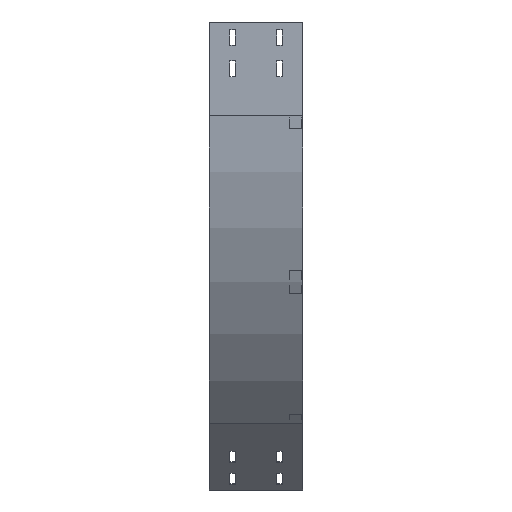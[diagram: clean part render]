
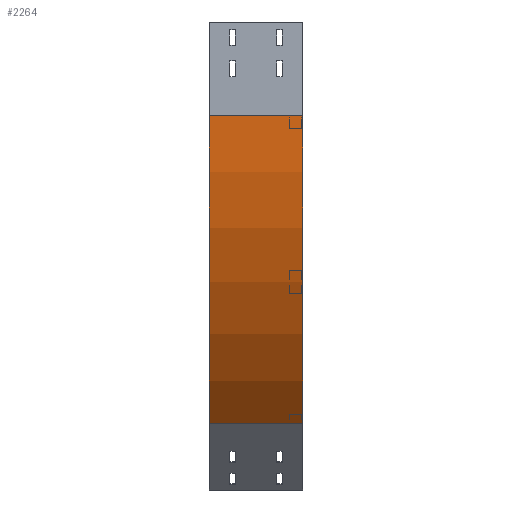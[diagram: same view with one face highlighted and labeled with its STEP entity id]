
A CAD part, left-side view. The second image highlights one B-rep face of the part: STEP entity #2264.
In plain terms, the highlighted cylindrical face has radius 700 mm (diameter 1400 mm), a partial arc.
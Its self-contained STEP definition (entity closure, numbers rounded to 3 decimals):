
#31 = VERTEX_POINT ( 'NONE', #565 ) ;
#133 = ORIENTED_EDGE ( 'NONE', *, *, #561, .F. ) ;
#432 = DIRECTION ( 'NONE',  ( 0., -1., 0. ) ) ;
#561 = EDGE_CURVE ( 'NONE', #762, #1721, #989, .T. ) ;
#565 = CARTESIAN_POINT ( 'NONE',  ( 205.025, 150., -644.975 ) ) ;
#620 = CARTESIAN_POINT ( 'NONE',  ( 205.025, 0., -644.975 ) ) ;
#637 = VECTOR ( 'NONE', #2580, 1000. ) ;
#646 = EDGE_LOOP ( 'NONE', ( #133, #3058, #1018, #3810 ) ) ;
#695 = CARTESIAN_POINT ( 'NONE',  ( 700., 150., -150. ) ) ;
#735 = DIRECTION ( 'NONE',  ( 0., -1., 0. ) ) ;
#762 = VERTEX_POINT ( 'NONE', #1791 ) ;
#784 = LINE ( 'NONE', #1076, #637 ) ;
#815 = AXIS2_PLACEMENT_3D ( 'NONE', #695, #432, #1624 ) ;
#856 = AXIS2_PLACEMENT_3D ( 'NONE', #2200, #1876, #1850 ) ;
#989 = CIRCLE ( 'NONE', #3160, 700. ) ;
#1018 = ORIENTED_EDGE ( 'NONE', *, *, #3041, .T. ) ;
#1076 = CARTESIAN_POINT ( 'NONE',  ( 0., 0., -150. ) ) ;
#1494 = DIRECTION ( 'NONE',  ( -1., 0., 0. ) ) ;
#1549 = CYLINDRICAL_SURFACE ( 'NONE', #856, 700. ) ;
#1624 = DIRECTION ( 'NONE',  ( -1., 0., 0. ) ) ;
#1721 = VERTEX_POINT ( 'NONE', #620 ) ;
#1791 = CARTESIAN_POINT ( 'NONE',  ( 0., 0., -150. ) ) ;
#1850 = DIRECTION ( 'NONE',  ( 0., 0., -1. ) ) ;
#1876 = DIRECTION ( 'NONE',  ( 0., -1., 0. ) ) ;
#1881 = CARTESIAN_POINT ( 'NONE',  ( 700., 0., -150. ) ) ;
#1929 = VECTOR ( 'NONE', #735, 1000. ) ;
#2200 = CARTESIAN_POINT ( 'NONE',  ( 700., 0., -150. ) ) ;
#2264 = ADVANCED_FACE ( 'NONE', ( #2773 ), #1549, .T. ) ;
#2275 = VERTEX_POINT ( 'NONE', #2515 ) ;
#2515 = CARTESIAN_POINT ( 'NONE',  ( 0., 150., -150. ) ) ;
#2580 = DIRECTION ( 'NONE',  ( 0., -1., 0. ) ) ;
#2773 = FACE_OUTER_BOUND ( 'NONE', #646, .T. ) ;
#3041 = EDGE_CURVE ( 'NONE', #2275, #31, #3659, .T. ) ;
#3058 = ORIENTED_EDGE ( 'NONE', *, *, #3391, .F. ) ;
#3061 = DIRECTION ( 'NONE',  ( 0., -1., 0. ) ) ;
#3079 = CARTESIAN_POINT ( 'NONE',  ( 205.025, 0., -644.975 ) ) ;
#3160 = AXIS2_PLACEMENT_3D ( 'NONE', #1881, #3061, #1494 ) ;
#3179 = EDGE_CURVE ( 'NONE', #31, #1721, #3369, .T. ) ;
#3369 = LINE ( 'NONE', #3079, #1929 ) ;
#3391 = EDGE_CURVE ( 'NONE', #2275, #762, #784, .T. ) ;
#3659 = CIRCLE ( 'NONE', #815, 700. ) ;
#3810 = ORIENTED_EDGE ( 'NONE', *, *, #3179, .T. ) ;
